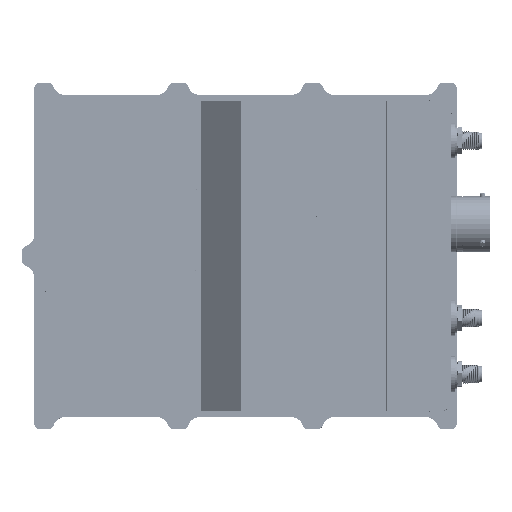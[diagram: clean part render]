
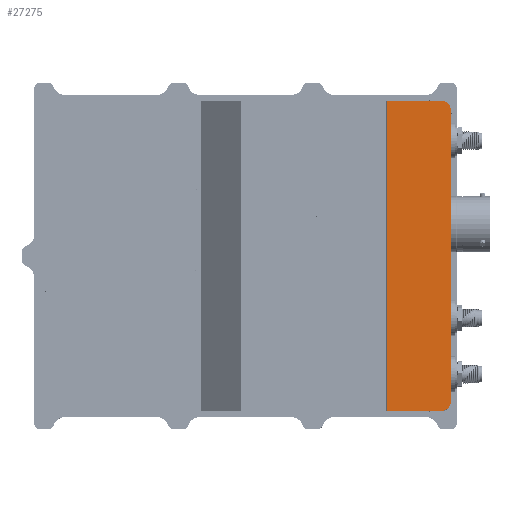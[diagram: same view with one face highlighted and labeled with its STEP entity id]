
A CAD part, top view. The second image highlights one B-rep face of the part: STEP entity #27275.
In plain terms, the highlighted planar face has unit normal (0, 0, 1).
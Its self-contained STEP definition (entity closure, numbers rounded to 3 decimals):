
#13702=PLANE('',#74469);
#15773=FACE_OUTER_BOUND('',#31499,.T.);
#19381=LINE('',#96598,#23246);
#19387=LINE('',#96613,#23252);
#19389=LINE('',#96617,#23254);
#19390=LINE('',#96619,#23255);
#23246=VECTOR('',#81171,1.);
#23252=VECTOR('',#81185,1.);
#23254=VECTOR('',#81189,1.);
#23255=VECTOR('',#81192,1.);
#27275=ADVANCED_FACE('',(#15773),#13702,.T.);
#31499=EDGE_LOOP('',(#37708,#37709,#37710,#37711,#37712,#37713));
#37708=ORIENTED_EDGE('',*,*,#55626,.F.);
#37709=ORIENTED_EDGE('',*,*,#55625,.F.);
#37710=ORIENTED_EDGE('',*,*,#55612,.F.);
#37711=ORIENTED_EDGE('',*,*,#55615,.F.);
#37712=ORIENTED_EDGE('',*,*,#55620,.F.);
#37713=ORIENTED_EDGE('',*,*,#55623,.F.);
#55612=EDGE_CURVE('',#67978,#67979,#64431,.T.);
#55615=EDGE_CURVE('',#67980,#67978,#19381,.T.);
#55620=EDGE_CURVE('',#67983,#67980,#64433,.T.);
#55623=EDGE_CURVE('',#67984,#67983,#19387,.T.);
#55625=EDGE_CURVE('',#67979,#67985,#19389,.T.);
#55626=EDGE_CURVE('',#67985,#67984,#19390,.T.);
#64431=CIRCLE('',#74461,3.2);
#64433=CIRCLE('',#74465,3.2);
#67978=VERTEX_POINT('',#96593);
#67979=VERTEX_POINT('',#96594);
#67980=VERTEX_POINT('',#96599);
#67983=VERTEX_POINT('',#96608);
#67984=VERTEX_POINT('',#96612);
#67985=VERTEX_POINT('',#96616);
#74461=AXIS2_PLACEMENT_3D('',#96592,#81165,#81166);
#74465=AXIS2_PLACEMENT_3D('',#96607,#81179,#81180);
#74469=AXIS2_PLACEMENT_3D('',#96620,#81193,#81194);
#81165=DIRECTION('',(0.,0.,-1.));
#81166=DIRECTION('',(0.707,0.707,0.));
#81171=DIRECTION('',(1.,0.,0.));
#81179=DIRECTION('',(0.,0.,-1.));
#81180=DIRECTION('',(-0.707,0.707,0.));
#81185=DIRECTION('',(0.,1.,0.));
#81189=DIRECTION('',(0.,-1.,0.));
#81192=DIRECTION('',(-1.,0.,0.));
#81193=DIRECTION('',(0.,0.,1.));
#81194=DIRECTION('',(1.,0.,0.));
#96592=CARTESIAN_POINT('',(49.3,65.4,31.));
#96593=CARTESIAN_POINT('',(49.3,68.6,31.));
#96594=CARTESIAN_POINT('',(52.5,65.4,31.));
#96598=CARTESIAN_POINT('',(0.,68.6,31.));
#96599=CARTESIAN_POINT('',(-49.3,68.6,31.));
#96607=CARTESIAN_POINT('',(-49.3,65.4,31.));
#96608=CARTESIAN_POINT('',(-52.5,65.4,31.));
#96612=CARTESIAN_POINT('',(-52.5,47.051,31.));
#96613=CARTESIAN_POINT('',(-52.5,33.85,31.));
#96616=CARTESIAN_POINT('',(52.5,47.051,31.));
#96617=CARTESIAN_POINT('',(52.5,33.85,31.));
#96619=CARTESIAN_POINT('',(-13.857,47.051,31.));
#96620=CARTESIAN_POINT('',(-27.713,52.6,31.));
